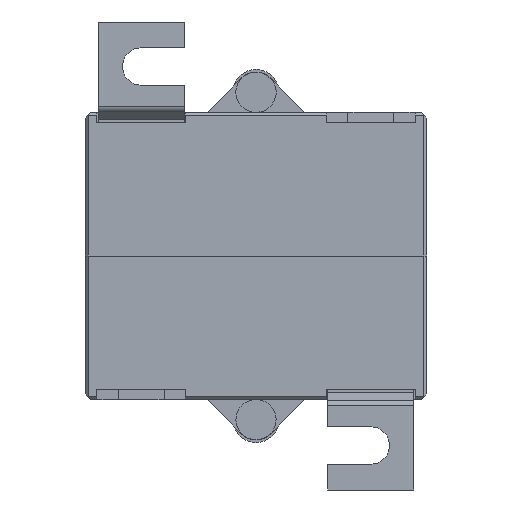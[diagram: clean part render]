
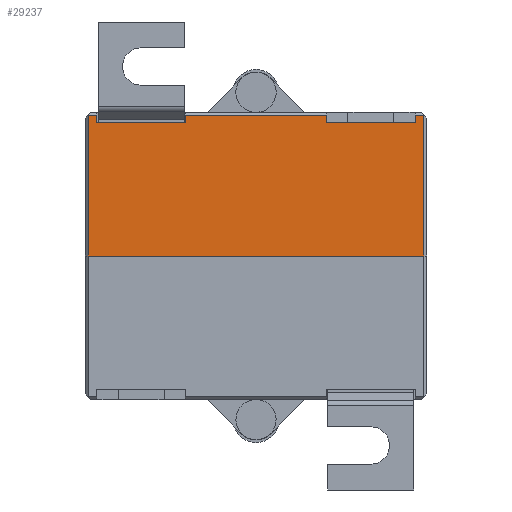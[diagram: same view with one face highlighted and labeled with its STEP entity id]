
A CAD part, front view. The second image highlights one B-rep face of the part: STEP entity #29237.
In plain terms, the highlighted planar face has unit normal (0, -1, 0).
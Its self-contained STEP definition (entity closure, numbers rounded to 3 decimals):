
#841=PLANE('',#31188);
#2214=FACE_OUTER_BOUND('',#3831,.T.);
#3831=EDGE_LOOP('',(#20563,#20564,#20565,#20566,#20567,#20568,#20569,#20570,
#20571,#20572,#20573,#20574));
#6532=LINE('',#39658,#9736);
#6535=LINE('',#39670,#9739);
#6542=LINE('',#39684,#9746);
#6543=LINE('',#39686,#9747);
#6544=LINE('',#39688,#9748);
#6545=LINE('',#39690,#9749);
#6546=LINE('',#39692,#9750);
#6547=LINE('',#39694,#9751);
#6548=LINE('',#39696,#9752);
#6549=LINE('',#39698,#9753);
#6550=LINE('',#39700,#9754);
#6551=LINE('',#39701,#9755);
#9736=VECTOR('',#33096,10.);
#9739=VECTOR('',#33107,10.);
#9746=VECTOR('',#33118,10.);
#9747=VECTOR('',#33119,10.);
#9748=VECTOR('',#33120,10.);
#9749=VECTOR('',#33121,10.);
#9750=VECTOR('',#33122,10.);
#9751=VECTOR('',#33123,10.);
#9752=VECTOR('',#33124,10.);
#9753=VECTOR('',#33125,10.);
#9754=VECTOR('',#33126,10.);
#9755=VECTOR('',#33127,10.);
#12920=VERTEX_POINT('',#39600);
#12948=VERTEX_POINT('',#39656);
#12953=VERTEX_POINT('',#39669);
#12958=VERTEX_POINT('',#39683);
#12959=VERTEX_POINT('',#39685);
#12960=VERTEX_POINT('',#39687);
#12961=VERTEX_POINT('',#39689);
#12962=VERTEX_POINT('',#39691);
#12963=VERTEX_POINT('',#39693);
#12964=VERTEX_POINT('',#39695);
#12965=VERTEX_POINT('',#39697);
#12966=VERTEX_POINT('',#39699);
#15934=EDGE_CURVE('',#12948,#12920,#6532,.T.);
#15940=EDGE_CURVE('',#12920,#12953,#6535,.T.);
#15947=EDGE_CURVE('',#12958,#12948,#6542,.T.);
#15948=EDGE_CURVE('',#12959,#12958,#6543,.T.);
#15949=EDGE_CURVE('',#12959,#12960,#6544,.T.);
#15950=EDGE_CURVE('',#12960,#12961,#6545,.T.);
#15951=EDGE_CURVE('',#12961,#12962,#6546,.T.);
#15952=EDGE_CURVE('',#12963,#12962,#6547,.T.);
#15953=EDGE_CURVE('',#12963,#12964,#6548,.T.);
#15954=EDGE_CURVE('',#12964,#12965,#6549,.T.);
#15955=EDGE_CURVE('',#12965,#12966,#6550,.T.);
#15956=EDGE_CURVE('',#12953,#12966,#6551,.T.);
#20563=ORIENTED_EDGE('',*,*,#15940,.F.);
#20564=ORIENTED_EDGE('',*,*,#15934,.F.);
#20565=ORIENTED_EDGE('',*,*,#15947,.F.);
#20566=ORIENTED_EDGE('',*,*,#15948,.F.);
#20567=ORIENTED_EDGE('',*,*,#15949,.T.);
#20568=ORIENTED_EDGE('',*,*,#15950,.T.);
#20569=ORIENTED_EDGE('',*,*,#15951,.T.);
#20570=ORIENTED_EDGE('',*,*,#15952,.F.);
#20571=ORIENTED_EDGE('',*,*,#15953,.T.);
#20572=ORIENTED_EDGE('',*,*,#15954,.T.);
#20573=ORIENTED_EDGE('',*,*,#15955,.T.);
#20574=ORIENTED_EDGE('',*,*,#15956,.F.);
#29237=ADVANCED_FACE('',(#2214),#841,.T.);
#31188=AXIS2_PLACEMENT_3D('',#39682,#33116,#33117);
#33096=DIRECTION('',(1.,0.,0.));
#33107=DIRECTION('',(0.,0.,-1.));
#33116=DIRECTION('center_axis',(0.,-1.,0.));
#33117=DIRECTION('ref_axis',(1.,0.,0.));
#33118=DIRECTION('',(0.,0.,1.));
#33119=DIRECTION('',(-1.,0.,0.));
#33120=DIRECTION('',(0.,0.,1.));
#33121=DIRECTION('',(1.,0.,0.));
#33122=DIRECTION('',(0.,0.,-1.));
#33123=DIRECTION('',(-1.,0.,0.));
#33124=DIRECTION('',(0.,0.,1.));
#33125=DIRECTION('',(1.,0.,0.));
#33126=DIRECTION('',(0.,0.,-1.));
#33127=DIRECTION('',(-1.,0.,0.));
#39600=CARTESIAN_POINT('',(29.25,0.,25.));
#39656=CARTESIAN_POINT('',(-29.25,0.,25.));
#39658=CARTESIAN_POINT('',(-29.75,0.,25.));
#39669=CARTESIAN_POINT('',(29.25,0.,0.5));
#39670=CARTESIAN_POINT('',(29.25,0.,0.));
#39682=CARTESIAN_POINT('Origin',(-29.75,0.,0.));
#39683=CARTESIAN_POINT('',(-29.25,0.,0.5));
#39684=CARTESIAN_POINT('',(-29.25,0.,0.));
#39685=CARTESIAN_POINT('',(-27.7,0.,0.5));
#39686=CARTESIAN_POINT('',(-14.875,0.,0.5));
#39687=CARTESIAN_POINT('',(-27.7,0.,1.8));
#39688=CARTESIAN_POINT('',(-27.7,0.,0.));
#39689=CARTESIAN_POINT('',(-12.3,0.,1.8));
#39690=CARTESIAN_POINT('',(-24.875,0.,1.8));
#39691=CARTESIAN_POINT('',(-12.3,0.,0.5));
#39692=CARTESIAN_POINT('',(-12.3,0.,0.));
#39693=CARTESIAN_POINT('',(12.3,0.,0.5));
#39694=CARTESIAN_POINT('',(-14.875,0.,0.5));
#39695=CARTESIAN_POINT('',(12.3,0.,1.8));
#39696=CARTESIAN_POINT('',(12.3,0.,0.));
#39697=CARTESIAN_POINT('',(27.7,0.,1.8));
#39698=CARTESIAN_POINT('',(-4.875,0.,1.8));
#39699=CARTESIAN_POINT('',(27.7,0.,0.5));
#39700=CARTESIAN_POINT('',(27.7,0.,0.));
#39701=CARTESIAN_POINT('',(-14.875,0.,0.5));
